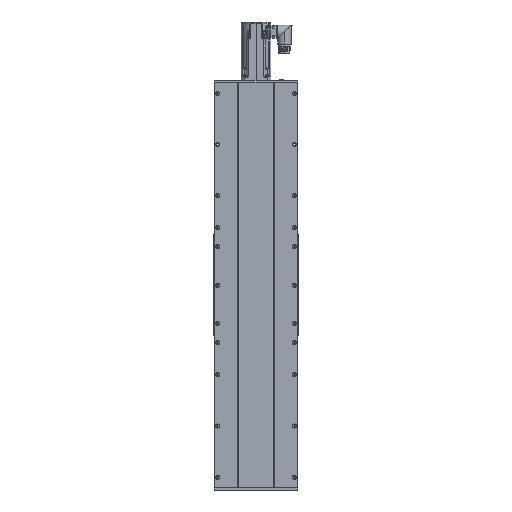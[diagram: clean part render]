
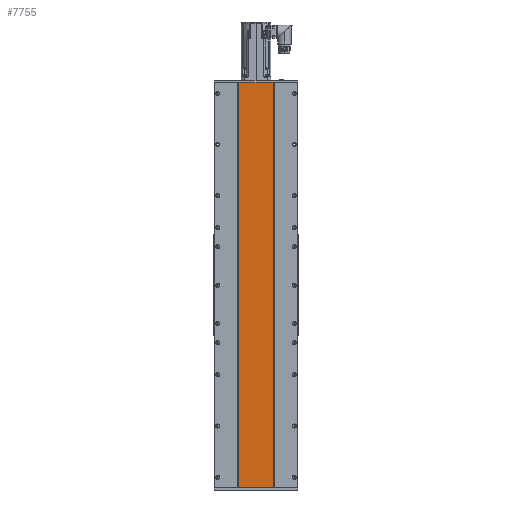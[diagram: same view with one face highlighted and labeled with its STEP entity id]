
A CAD part, front view. The second image highlights one B-rep face of the part: STEP entity #7755.
In plain terms, the highlighted planar face has unit normal (0, -1, 0).
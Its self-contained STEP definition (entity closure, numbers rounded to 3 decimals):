
#2416=DIRECTION('',(0.,0.,1.));
#2417=VECTOR('',#2416,792.);
#2418=CARTESIAN_POINT('',(35.,-31.75,-396.));
#2419=LINE('',#2418,#2417);
#2990=DIRECTION('',(1.,0.,0.));
#2991=VECTOR('',#2990,70.);
#2992=CARTESIAN_POINT('',(-35.,-31.75,396.));
#2993=LINE('',#2992,#2991);
#2998=DIRECTION('',(0.,0.,1.));
#2999=VECTOR('',#2998,792.);
#3000=CARTESIAN_POINT('',(-35.,-31.75,-396.));
#3001=LINE('',#3000,#2999);
#3006=DIRECTION('',(1.,0.,0.));
#3007=VECTOR('',#3006,70.);
#3008=CARTESIAN_POINT('',(-35.,-31.75,-396.));
#3009=LINE('',#3008,#3007);
#4589=CARTESIAN_POINT('',(-35.,-31.75,-396.));
#4590=CARTESIAN_POINT('',(35.,-31.75,-396.));
#4591=VERTEX_POINT('',#4589);
#4592=VERTEX_POINT('',#4590);
#4593=CARTESIAN_POINT('',(-35.,-31.75,396.));
#4594=CARTESIAN_POINT('',(35.,-31.75,396.));
#4595=VERTEX_POINT('',#4593);
#4596=VERTEX_POINT('',#4594);
#7743=CARTESIAN_POINT('',(-35.,-31.75,-396.));
#7744=DIRECTION('',(0.,1.,0.));
#7745=DIRECTION('',(1.,0.,0.));
#7746=AXIS2_PLACEMENT_3D('',#7743,#7744,#7745);
#7747=PLANE('',#7746);
#7749=ORIENTED_EDGE('',*,*,#7748,.F.);
#7750=ORIENTED_EDGE('',*,*,#7722,.T.);
#7751=ORIENTED_EDGE('',*,*,#7737,.T.);
#7752=ORIENTED_EDGE('',*,*,#6875,.F.);
#7753=EDGE_LOOP('',(#7749,#7750,#7751,#7752));
#7754=FACE_OUTER_BOUND('',#7753,.F.);
#7755=ADVANCED_FACE('',(#7754),#7747,.F.);
#6875=EDGE_CURVE('',#4592,#4596,#2419,.T.);
#7722=EDGE_CURVE('',#4591,#4595,#3001,.T.);
#7737=EDGE_CURVE('',#4595,#4596,#2993,.T.);
#7748=EDGE_CURVE('',#4591,#4592,#3009,.T.);
